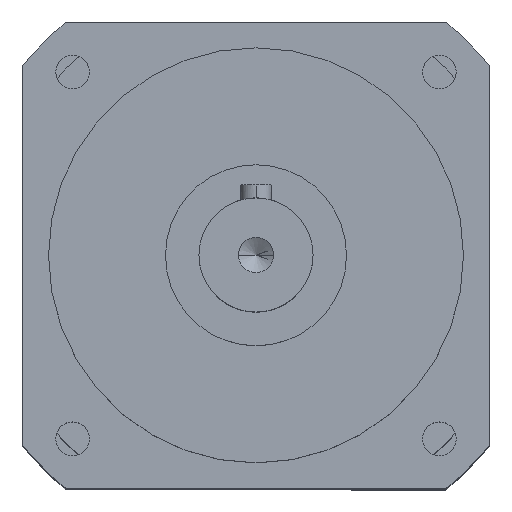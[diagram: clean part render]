
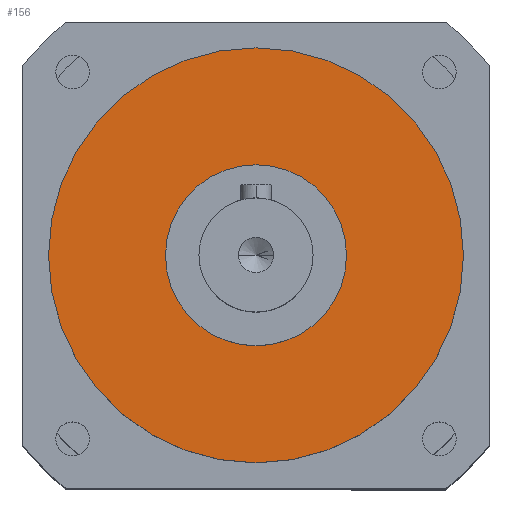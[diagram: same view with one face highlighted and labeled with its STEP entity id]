
A CAD part, top view. The second image highlights one B-rep face of the part: STEP entity #156.
In plain terms, the highlighted planar face has unit normal (0, 0, 1).
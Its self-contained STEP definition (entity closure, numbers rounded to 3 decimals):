
#156 = ADVANCED_FACE ( 'NONE', ( #6715, #6651 ), #6882, .T. ) ;
#514 = AXIS2_PLACEMENT_3D ( 'NONE', #9806, #9807, #9808 ) ;
#527 = AXIS2_PLACEMENT_3D ( 'NONE', #3479, #3480, #3481 ) ;
#550 = AXIS2_PLACEMENT_3D ( 'NONE', #3662, #3663, #3664 ) ;
#582 = AXIS2_PLACEMENT_3D ( 'NONE', #3843, #3844, #3845 ) ;
#902 = AXIS2_PLACEMENT_3D ( 'NONE', #6883, #6877, #6876 ) ;
#1724 = CIRCLE ( 'NONE', #582, 40. ) ;
#1903 = CIRCLE ( 'NONE', #550, 17.45 ) ;
#2593 = EDGE_CURVE ( 'NONE', #8057, #8077, #6455, .T. ) ;
#2636 = EDGE_CURVE ( 'NONE', #7560, #7703, #6495, .T. ) ;
#2693 = EDGE_CURVE ( 'NONE', #7703, #7560, #1903, .T. ) ;
#2767 = EDGE_CURVE ( 'NONE', #8077, #8057, #1724, .T. ) ;
#3479 = CARTESIAN_POINT ( 'NONE',  ( 0., 0., 10. ) ) ;
#3480 = DIRECTION ( 'NONE',  ( 0., 0., -1. ) ) ;
#3481 = DIRECTION ( 'NONE',  ( 0., 1., 0. ) ) ;
#3662 = CARTESIAN_POINT ( 'NONE',  ( 0., 0., 10. ) ) ;
#3663 = DIRECTION ( 'NONE',  ( 0., 0., -1. ) ) ;
#3664 = DIRECTION ( 'NONE',  ( 0., 1., 0. ) ) ;
#3843 = CARTESIAN_POINT ( 'NONE',  ( 0., 0., 10. ) ) ;
#3844 = DIRECTION ( 'NONE',  ( 0., 0., -1. ) ) ;
#3845 = DIRECTION ( 'NONE',  ( 0., 1., 0. ) ) ;
#4638 = CARTESIAN_POINT ( 'NONE',  ( 0., 17.45, 10. ) ) ;
#4658 = CARTESIAN_POINT ( 'NONE',  ( 0., -17.45, 10. ) ) ;
#4725 = CARTESIAN_POINT ( 'NONE',  ( 0., -40., 10. ) ) ;
#4731 = CARTESIAN_POINT ( 'NONE',  ( 0., 40., 10. ) ) ;
#6455 = CIRCLE ( 'NONE', #514, 40. ) ;
#6495 = CIRCLE ( 'NONE', #527, 17.45 ) ;
#6651 = FACE_OUTER_BOUND ( 'NONE', #7382, .T. ) ;
#6715 = FACE_BOUND ( 'NONE', #7766, .T. ) ;
#6876 = DIRECTION ( 'NONE',  ( 0., -1., 0. ) ) ;
#6877 = DIRECTION ( 'NONE',  ( 0., 0., 1. ) ) ;
#6882 = PLANE ( 'NONE',  #902 ) ;
#6883 = CARTESIAN_POINT ( 'NONE',  ( 0., 17.45, 10. ) ) ;
#7382 = EDGE_LOOP ( 'NONE', ( #7874, #7823 ) ) ;
#7560 = VERTEX_POINT ( 'NONE', #4638 ) ;
#7703 = VERTEX_POINT ( 'NONE', #4658 ) ;
#7706 = ORIENTED_EDGE ( 'NONE', *, *, #2693, .T. ) ;
#7766 = EDGE_LOOP ( 'NONE', ( #7983, #7706 ) ) ;
#7823 = ORIENTED_EDGE ( 'NONE', *, *, #2593, .F. ) ;
#7874 = ORIENTED_EDGE ( 'NONE', *, *, #2767, .F. ) ;
#7983 = ORIENTED_EDGE ( 'NONE', *, *, #2636, .T. ) ;
#8057 = VERTEX_POINT ( 'NONE', #4725 ) ;
#8077 = VERTEX_POINT ( 'NONE', #4731 ) ;
#9806 = CARTESIAN_POINT ( 'NONE',  ( 0., 0., 10. ) ) ;
#9807 = DIRECTION ( 'NONE',  ( 0., 0., -1. ) ) ;
#9808 = DIRECTION ( 'NONE',  ( 0., 1., 0. ) ) ;
